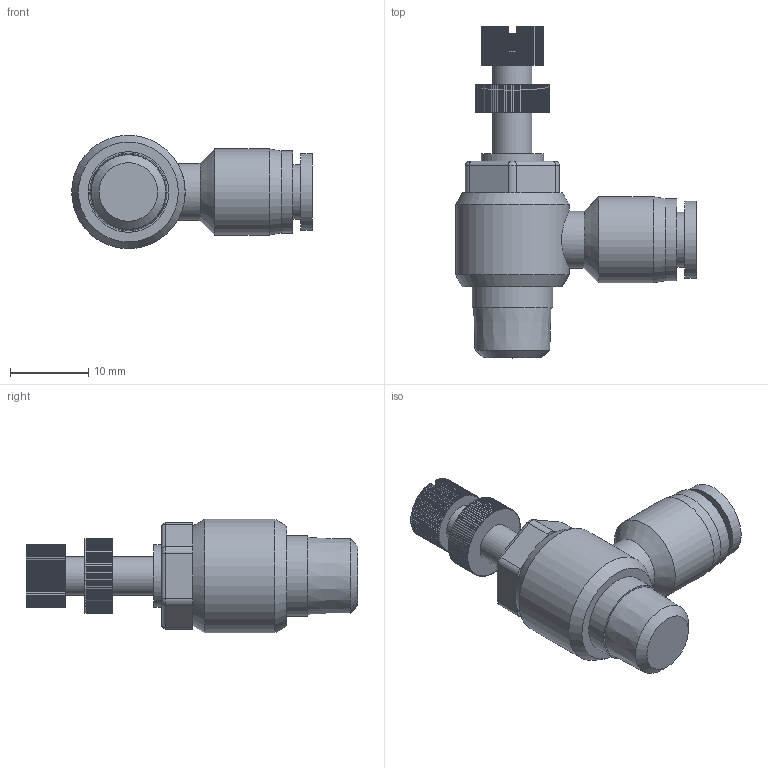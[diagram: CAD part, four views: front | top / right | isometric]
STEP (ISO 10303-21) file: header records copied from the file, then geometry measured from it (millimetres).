
FILE_DESCRIPTION((''),'2;1');
FILE_NAME('S:\UTecnico\ArchivioUT\Speciali Clienti\Speciali KONFIT\DISEGNI 3D\DP\DP 79\DP79KP1804.stp','2013-06-07T08:21:53',('UT5'),(''),'Autodesk Inventor 2013','Autodesk Inventor 2013','');
FILE_SCHEMA(('AUTOMOTIVE_DESIGN { 1 0 10303 214 1 1 1 1 }'));
Length unit declared in the file: millimetre
Products named in the file (1): DP79KP1804
Bounding box: 30.75 x 42.4 x 14.5 mm (x, y, z)
Volume: 4792.6 mm3; surface area: 2786.5 mm2
Topology: 1 solids, 1 shells, 610 faces, 1764 edges, 1166 vertices
Faces by surface type: plane 395, cylinder 203, bspline 6, cone 6
Full cylindrical faces by diameter (mm): 4 x1, 5 x2, 7 x1, 7.3 x1, 8 x1, 9.8 x1, 10.3 x1, 10.5 x1, 11 x1, 14.5 x1
Entity records: 20114 total; most frequent: CARTESIAN_POINT 3708, ORIENTED_EDGE 3484, DIRECTION 3382, EDGE_CURVE 1742, VECTOR 1310, LINE 1310, VERTEX_POINT 1162, AXIS2_PLACEMENT_3D 1036
